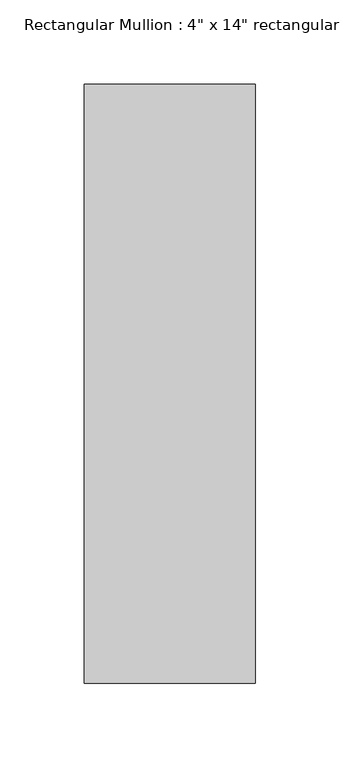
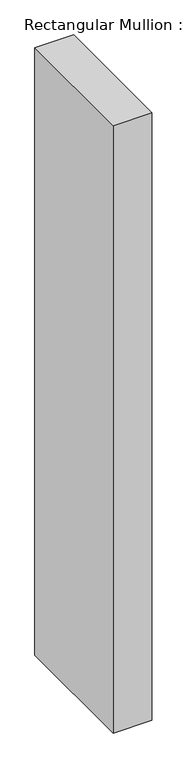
"""IFC4 building model written with IfcOpenShell, lengths in millimetres: member geometry."""

import ifcopenshell
import ifcopenshell.guid

model = None  # the IFC model being written
_history = None  # IfcOwnerHistory: only IFC2X3 demands one
_inside = {}  # id of a spatial element -> (the spatial element, [elements in it])
_under = {}  # id of a project, library or spatial element -> (it, [spatial elements below it])
_declared = {}  # id of a project -> (the project, [libraries it declares])
_typed = {}  # id of a type object -> (the type object, [elements of that type])
_made_of = {}  # id of a material, layer set ... -> (it, [elements and type objects made of it])


def new_model(schema):
    """Start an empty IFC model of exactly this schema.

    Asked for "IFC4X3", IfcOpenShell would pick the latest addendum, in which some entities
    have other attributes; the version numbers below select the first issue.
    IFC2X3 requires an IfcOwnerHistory on every rooted entity: one is made here for all.
    """
    global model, _history
    if schema == "IFC4X3":
        model = ifcopenshell.file(schema_version=(4, 3, 0, 0))
    else:
        model = ifcopenshell.file(schema=schema)
    _inside.clear()
    _under.clear()
    _declared.clear()
    _typed.clear()
    _made_of.clear()
    _history = None
    if model.schema == "IFC2X3":
        org = make("IfcOrganization", Name="unknown")
        user = make(
            "IfcPersonAndOrganization",
            ThePerson=make("IfcPerson", FamilyName="unknown"),
            TheOrganization=org,
        )
        app = make(
            "IfcApplication",
            ApplicationDeveloper=org,
            Version="unknown",
            ApplicationFullName="unknown",
            ApplicationIdentifier="unknown",
        )
        _history = make(
            "IfcOwnerHistory",
            OwningUser=user,
            OwningApplication=app,
            ChangeAction="ADDED",
            CreationDate=0,
        )
    return model


def make(cls, **values):
    """One entity of the class cls with the attributes given. An attribute that is None is left unset."""
    return model.create_entity(
        cls, **{name: value for name, value in values.items() if value is not None}
    )


def rooted(cls, **values):
    """An entity with a GlobalId (a new one), such as an element, a storey or a relation."""
    return make(cls, GlobalId=ifcopenshell.guid.new(), OwnerHistory=_history, **values)


def si_unit(unit_type, name, prefix=None):
    """IfcSIUnit, for example si_unit("LENGTHUNIT", "METRE", prefix="MILLI")."""
    return make("IfcSIUnit", UnitType=unit_type, Prefix=prefix, Name=name)


def assignment(units):
    """IfcUnitAssignment: the units of a project."""
    return None if units is None else make("IfcUnitAssignment", Units=units)


def point(xyz):
    """IfcCartesianPoint."""
    return None if xyz is None else make("IfcCartesianPoint", Coordinates=xyz)


def direction(xyz):
    """IfcDirection."""
    return None if xyz is None else make("IfcDirection", DirectionRatios=xyz)


def frame(location, z_axis=None, x_axis=None):
    """IfcAxis2Placement3D, a coordinate frame: its origin and axes. An axis left out is left unset."""
    return make(
        "IfcAxis2Placement3D",
        Location=point(location),
        Axis=direction(z_axis),
        RefDirection=direction(x_axis),
    )


def origin():
    """The frame at (0, 0, 0) with its axes left unset."""
    return frame((0.0, 0.0, 0.0))


def place(relative_to, where):
    """IfcLocalPlacement: puts the frame where relative to a parent placement (None: the world)."""
    return make(
        "IfcLocalPlacement", PlacementRelTo=relative_to, RelativePlacement=where
    )


def context(
    kind, dimensions, precision=None, world=None, true_north=None, identifier=None
):
    """IfcGeometricRepresentationContext, for example the 3D "Model" context."""
    return make(
        "IfcGeometricRepresentationContext",
        ContextIdentifier=identifier,
        ContextType=kind,
        CoordinateSpaceDimension=dimensions,
        Precision=precision,
        WorldCoordinateSystem=world,
        TrueNorth=true_north,
    )


def project(units=None, contexts=None):
    """IfcProject with its units and contexts."""
    return rooted(
        "IfcProject",
        Name="project",
        RepresentationContexts=contexts,
        UnitsInContext=assignment(units),
    )


def spatial(cls, under=None, at=None, **own):
    """A site, building, storey or space (cls), placed at a placement, below another one or the project."""
    s = rooted(cls, ObjectPlacement=at, **own)
    if under is not None:
        _under.setdefault(under.id(), (under, []))[1].append(s)
    return s


def polyline(points):
    """IfcPolyline through the points."""
    return make("IfcPolyline", Points=[point(p) for p in points])


def outline(outer, holes=None, kind="AREA"):
    """IfcArbitraryClosedProfileDef: a profile drawn as a closed curve; with holes, ...WithVoids."""
    if holes is None:
        return make("IfcArbitraryClosedProfileDef", ProfileType=kind, OuterCurve=outer)
    return make(
        "IfcArbitraryProfileDefWithVoids",
        ProfileType=kind,
        OuterCurve=outer,
        InnerCurves=holes,
    )


def extrude(swept, where, along, depth):
    """IfcExtrudedAreaSolid: the profile swept, set in the frame where, extruded along a direction by depth."""
    return make(
        "IfcExtrudedAreaSolid",
        SweptArea=swept,
        Position=where,
        ExtrudedDirection=direction(along),
        Depth=depth,
    )


def shape(context_of_items, identifier, shape_type, items):
    """IfcShapeRepresentation: the items that make up one representation, for example the "Body"."""
    return make(
        "IfcShapeRepresentation",
        ContextOfItems=context_of_items,
        RepresentationIdentifier=identifier,
        RepresentationType=shape_type,
        Items=items,
    )


def source(mapping_origin, context_of_items, identifier, shape_type, items):
    """IfcRepresentationMap: a shape defined once, which mapped items show again and again."""
    return make(
        "IfcRepresentationMap",
        MappingOrigin=mapping_origin,
        MappedRepresentation=shape(context_of_items, identifier, shape_type, items),
    )


def transform(
    local_origin,
    x_axis=None,
    y_axis=None,
    z_axis=None,
    scale=None,
    scale2=None,
    scale3=None,
    uniform=True,
):
    """IfcCartesianTransformationOperator3D, or its non-uniform kind. x_axis, y_axis, z_axis: its Axis1, 2, 3."""
    if uniform:
        return make(
            "IfcCartesianTransformationOperator3D",
            Axis1=direction(x_axis),
            Axis2=direction(y_axis),
            LocalOrigin=point(local_origin),
            Scale=scale,
            Axis3=direction(z_axis),
        )
    return make(
        "IfcCartesianTransformationOperator3DnonUniform",
        Axis1=direction(x_axis),
        Axis2=direction(y_axis),
        LocalOrigin=point(local_origin),
        Scale=scale,
        Axis3=direction(z_axis),
        Scale2=scale2,
        Scale3=scale3,
    )


def mapped(mapping_source, mapping_target):
    """IfcMappedItem: shows the shape of a source again, moved by a transform."""
    return make(
        "IfcMappedItem", MappingSource=mapping_source, MappingTarget=mapping_target
    )


def made_of(thing, what):
    """Note that an element or type object is made of a material, layer set ...; save() writes the relation."""
    if what is not None:
        _made_of.setdefault(what.id(), (what, []))[1].append(thing)
    return thing


def element(
    cls,
    number,
    at=None,
    inside=None,
    cuts=None,
    type_object=None,
    material=None,
    context=None,
    identifier="Body",
    shape_type=None,
    held_by="IfcProductDefinitionShape",
    body=None,
    shapes=None,
    **own,
):
    """One element of the class cls, such as IfcWall. Its Tag is "e" and its number.

    at: its placement. inside: the storey or other place that contains it. cuts: it is an
    opening in that element (IfcRelVoidsElement). A single representation is given by context,
    identifier, shape_type and body (its items); several are given by shapes. held_by: the class
    of the entity that holds the representations. save() writes the other relations.
    """
    e = rooted(cls, Tag="e%d" % number, ObjectPlacement=at, **own)
    if body is not None:
        shapes = [shape(context, identifier, shape_type, body)]
    if shapes is not None:
        e.Representation = make(held_by, Representations=shapes)
    if inside is not None:
        _inside.setdefault(inside.id(), (inside, []))[1].append(e)
    if cuts is not None:
        rooted(
            "IfcRelVoidsElement", RelatingBuildingElement=cuts, RelatedOpeningElement=e
        )
    if type_object is not None:
        _typed.setdefault(type_object.id(), (type_object, []))[1].append(e)
    return made_of(e, material)


def aggregate(whole, parts):
    """IfcRelAggregates: a whole, such as a stair, and the parts it consists of."""
    return rooted("IfcRelAggregates", RelatingObject=whole, RelatedObjects=parts)


def save(model, path):
    """Write the relations noted so far, then the file.

    IfcRelAggregates (storeys below a building ...), IfcRelContainedInSpatialStructure (elements
    in a storey), IfcRelDefinesByType, IfcRelAssociatesMaterial and IfcRelDeclares: one each for
    every whole, place, type object, material and project.
    """
    for whole, parts in _under.values():
        aggregate(whole, parts)
    for where, things in _inside.values():
        rooted(
            "IfcRelContainedInSpatialStructure",
            RelatedElements=things,
            RelatingStructure=where,
        )
    for kind, things in _typed.values():
        rooted("IfcRelDefinesByType", RelatedObjects=things, RelatingType=kind)
    for what, things in _made_of.values():
        rooted("IfcRelAssociatesMaterial", RelatedObjects=things, RelatingMaterial=what)
    for by, libraries in _declared.values():
        rooted("IfcRelDeclares", RelatingContext=by, RelatedDefinitions=libraries)
    model.write(path)


def member_7af71b4c(model_context):
    return source(origin(), model_context, "Body", "SweptSolid", [
        extrude(outline(polyline([(50.8, 292.1), (50.8, -63.5), (-50.8, -63.5), (-50.8, 292.1), (50.8, 292.1)])), frame((0.0, 0.0, -1684.347058), z_axis=(0.0, 0.0, 1.0), x_axis=(1.0, 0.0, 0.0)), (0.0, 0.0, 1.0), 1684.347058),
    ])


if __name__ == "__main__":
    model = new_model("IFC4")
    model_context = context("Model", 3, world=origin())
    ifc_project = project(units=[si_unit("LENGTHUNIT", "METRE", prefix="MILLI")], contexts=[model_context])
    site = spatial("IfcSite", under=ifc_project)
    building = spatial("IfcBuilding", under=site)
    placement = place(None, origin())
    member_shape = member_7af71b4c(model_context)
    element("IfcMember", 1, ObjectType="Rectangular Mullion : 4\" x 14\" rectangular", at=placement, inside=building, context=model_context, shape_type="MappedRepresentation", body=[
        mapped(member_shape, transform((0.0, 0.0, 0.0), x_axis=(1.0, 0.0, 0.0), y_axis=(0.0, 1.0, 0.0), z_axis=(0.0, 0.0, 1.0))),
    ])
    save(model, "model.ifc")
